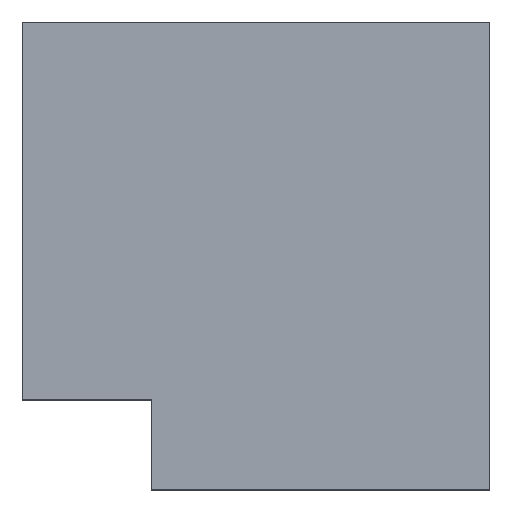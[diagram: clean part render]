
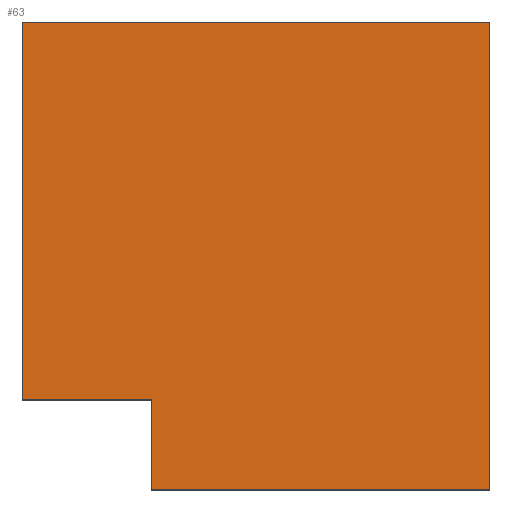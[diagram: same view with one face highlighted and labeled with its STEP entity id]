
A CAD part, top view. The second image highlights one B-rep face of the part: STEP entity #63.
In plain terms, the highlighted planar face has unit normal (0, 0, 1).
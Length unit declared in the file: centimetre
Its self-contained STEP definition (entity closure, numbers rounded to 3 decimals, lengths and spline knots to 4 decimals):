
#4 = CARTESIAN_POINT ( 'NONE',  ( 276.4776, 0., 1000. ) ) ;
#8 = LINE ( 'NONE', #258, #330 ) ;
#35 = EDGE_CURVE ( 'NONE', #102, #142, #305, .T. ) ;
#36 = ORIENTED_EDGE ( 'NONE', *, *, #261, .T. ) ;
#39 = VERTEX_POINT ( 'NONE', #445 ) ;
#54 = LINE ( 'NONE', #170, #66 ) ;
#55 = CARTESIAN_POINT ( 'NONE',  ( 1000., 0., 1000. ) ) ;
#60 = VERTEX_POINT ( 'NONE', #55 ) ;
#63 = ADVANCED_FACE ( 'NONE', ( #94 ), #172, .T. ) ;
#64 = LINE ( 'NONE', #144, #88 ) ;
#66 = VECTOR ( 'NONE', #375, 100. ) ;
#84 = ORIENTED_EDGE ( 'NONE', *, *, #153, .T. ) ;
#88 = VECTOR ( 'NONE', #455, 100. ) ;
#89 = DIRECTION ( 'NONE',  ( 1., 0., 0. ) ) ;
#94 = FACE_OUTER_BOUND ( 'NONE', #344, .T. ) ;
#102 = VERTEX_POINT ( 'NONE', #401 ) ;
#120 = VECTOR ( 'NONE', #377, 100. ) ;
#122 = ORIENTED_EDGE ( 'NONE', *, *, #179, .T. ) ;
#142 = VERTEX_POINT ( 'NONE', #192 ) ;
#144 = CARTESIAN_POINT ( 'NONE',  ( 0., 191.8411, 1000. ) ) ;
#148 = ORIENTED_EDGE ( 'NONE', *, *, #443, .T. ) ;
#153 = EDGE_CURVE ( 'NONE', #142, #350, #8, .T. ) ;
#160 = DIRECTION ( 'NONE',  ( 0., 0., 1. ) ) ;
#170 = CARTESIAN_POINT ( 'NONE',  ( 1000., 1000., 1000. ) ) ;
#172 = PLANE ( 'NONE',  #421 ) ;
#179 = EDGE_CURVE ( 'NONE', #235, #60, #294, .T. ) ;
#192 = CARTESIAN_POINT ( 'NONE',  ( 0., 1000., 1000. ) ) ;
#194 = DIRECTION ( 'NONE',  ( 1., 0., 0. ) ) ;
#224 = VECTOR ( 'NONE', #194, 100. ) ;
#230 = DIRECTION ( 'NONE',  ( 0., -1., 0. ) ) ;
#235 = VERTEX_POINT ( 'NONE', #4 ) ;
#238 = VECTOR ( 'NONE', #351, 100. ) ;
#258 = CARTESIAN_POINT ( 'NONE',  ( 0., 1000., 1000. ) ) ;
#261 = EDGE_CURVE ( 'NONE', #39, #235, #307, .T. ) ;
#267 = CARTESIAN_POINT ( 'NONE',  ( 276.4776, 0., 1000. ) ) ;
#294 = LINE ( 'NONE', #335, #224 ) ;
#305 = LINE ( 'NONE', #311, #120 ) ;
#307 = LINE ( 'NONE', #267, #238 ) ;
#310 = ORIENTED_EDGE ( 'NONE', *, *, #328, .T. ) ;
#311 = CARTESIAN_POINT ( 'NONE',  ( 0., 1000., 1000. ) ) ;
#326 = ORIENTED_EDGE ( 'NONE', *, *, #35, .T. ) ;
#328 = EDGE_CURVE ( 'NONE', #60, #102, #54, .T. ) ;
#330 = VECTOR ( 'NONE', #230, 100. ) ;
#335 = CARTESIAN_POINT ( 'NONE',  ( 0., 0., 1000. ) ) ;
#344 = EDGE_LOOP ( 'NONE', ( #36, #122, #310, #326, #84, #148 ) ) ;
#350 = VERTEX_POINT ( 'NONE', #381 ) ;
#351 = DIRECTION ( 'NONE',  ( 0., -1., 0. ) ) ;
#375 = DIRECTION ( 'NONE',  ( 0., 1., 0. ) ) ;
#377 = DIRECTION ( 'NONE',  ( -1., 0., 0. ) ) ;
#381 = CARTESIAN_POINT ( 'NONE',  ( 0., 191.8411, 1000. ) ) ;
#401 = CARTESIAN_POINT ( 'NONE',  ( 1000., 1000., 1000. ) ) ;
#421 = AXIS2_PLACEMENT_3D ( 'NONE', #452, #160, #89 ) ;
#443 = EDGE_CURVE ( 'NONE', #350, #39, #64, .T. ) ;
#445 = CARTESIAN_POINT ( 'NONE',  ( 276.4776, 191.8411, 1000. ) ) ;
#452 = CARTESIAN_POINT ( 'NONE',  ( 0., 0., 1000. ) ) ;
#455 = DIRECTION ( 'NONE',  ( 1., 0., 0. ) ) ;
